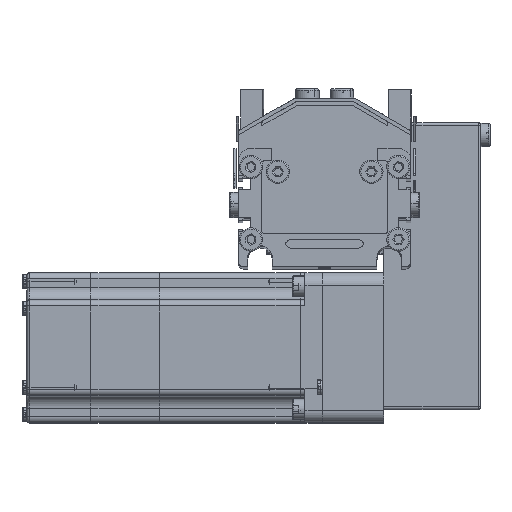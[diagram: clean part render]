
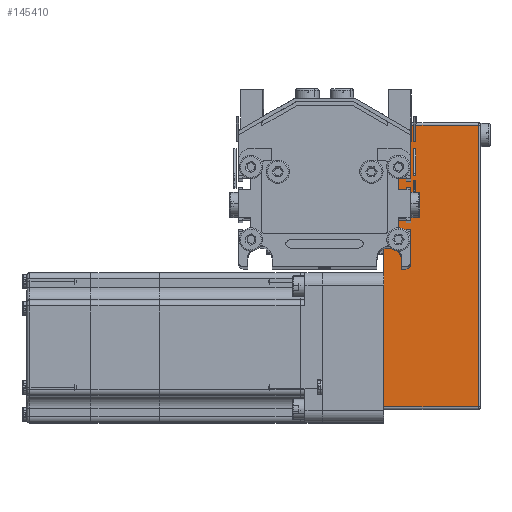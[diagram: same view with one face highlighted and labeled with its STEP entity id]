
A CAD part, top view. The second image highlights one B-rep face of the part: STEP entity #145410.
In plain terms, the highlighted planar face has unit normal (0, 0, 1) as drawn and (0, -1, 0) by its records, which use the part's own axes.
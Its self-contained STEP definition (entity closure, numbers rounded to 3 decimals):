
#68199 = LINE ( 'NONE', #68308, #68306 ) ;
#68251 = LINE ( 'NONE', #68396, #68394 ) ;
#68253 = CARTESIAN_POINT ( 'NONE',  ( -49., -25., 38.5 ) ) ;
#68258 = CARTESIAN_POINT ( 'NONE',  ( -50., -25., 39.5 ) ) ;
#68272 = CARTESIAN_POINT ( 'NONE',  ( 65.5, -25., 38.5 ) ) ;
#68287 = AXIS2_PLACEMENT_3D ( 'NONE', #68258, #68375, #68373 ) ;
#68304 = DIRECTION ( 'NONE',  ( 1., 0., 0. ) ) ;
#68306 = VECTOR ( 'NONE', #68304, 1000. ) ;
#68308 = CARTESIAN_POINT ( 'NONE',  ( -50., -25., 0. ) ) ;
#68363 = DIRECTION ( 'NONE',  ( 0., 0., -1. ) ) ;
#68365 = VECTOR ( 'NONE', #68363, 1000. ) ;
#68366 = CARTESIAN_POINT ( 'NONE',  ( -49., -25., 39.5 ) ) ;
#68373 = DIRECTION ( 'NONE',  ( 0., 0., 1. ) ) ;
#68375 = DIRECTION ( 'NONE',  ( 0., 1., 0. ) ) ;
#68379 = LINE ( 'NONE', #68366, #68365 ) ;
#68384 = PLANE ( 'NONE',  #68287 ) ;
#68386 = FACE_OUTER_BOUND ( 'NONE', #145392, .T. ) ;
#68393 = DIRECTION ( 'NONE',  ( 0., 0., 1. ) ) ;
#68394 = VECTOR ( 'NONE', #68393, 1000. ) ;
#68396 = CARTESIAN_POINT ( 'NONE',  ( 65.5, -25., 39.5 ) ) ;
#69174 = DIRECTION ( 'NONE',  ( -1., 0., 0. ) ) ;
#69177 = VECTOR ( 'NONE', #69174, 1000. ) ;
#69179 = CARTESIAN_POINT ( 'NONE',  ( -50., -25., 38.5 ) ) ;
#69180 = LINE ( 'NONE', #69179, #69177 ) ;
#69736 = CARTESIAN_POINT ( 'NONE',  ( -49., -25., 0. ) ) ;
#69773 = CARTESIAN_POINT ( 'NONE',  ( 65.5, -25., 0. ) ) ;
#145356 = EDGE_CURVE ( 'NONE', #145640, #145638, #68199, .T. ) ;
#145380 = ORIENTED_EDGE ( 'NONE', *, *, #145401, .T. ) ;
#145392 = EDGE_LOOP ( 'NONE', ( #145438, #145565, #145399, #145380 ) ) ;
#145399 = ORIENTED_EDGE ( 'NONE', *, *, #145356, .T. ) ;
#145401 = EDGE_CURVE ( 'NONE', #145638, #145405, #68251, .T. ) ;
#145405 = VERTEX_POINT ( 'NONE', #68272 ) ;
#145407 = VERTEX_POINT ( 'NONE', #68253 ) ;
#145410 = ADVANCED_FACE ( 'NONE', ( #68386 ), #68384, .F. ) ;
#145412 = EDGE_CURVE ( 'NONE', #145407, #145640, #68379, .T. ) ;
#145427 = EDGE_CURVE ( 'NONE', #145405, #145407, #69180, .T. ) ;
#145438 = ORIENTED_EDGE ( 'NONE', *, *, #145427, .T. ) ;
#145565 = ORIENTED_EDGE ( 'NONE', *, *, #145412, .T. ) ;
#145638 = VERTEX_POINT ( 'NONE', #69773 ) ;
#145640 = VERTEX_POINT ( 'NONE', #69736 ) ;
